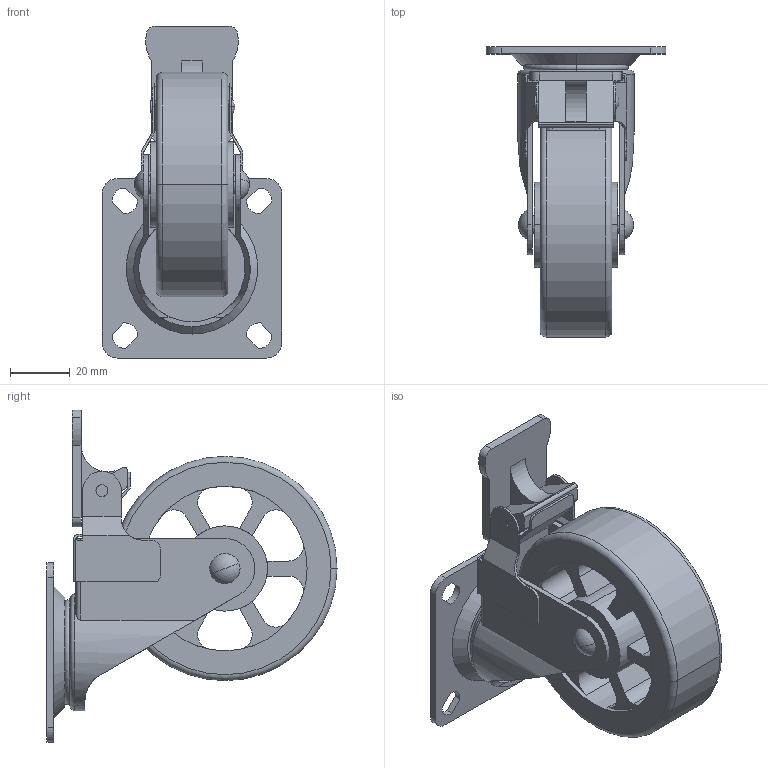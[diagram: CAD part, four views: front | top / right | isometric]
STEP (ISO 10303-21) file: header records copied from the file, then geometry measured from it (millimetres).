
FILE_DESCRIPTION (( 'STEP AP214' ), '1' );
FILE_NAME ('EMMA2-75S-P.STEP', '2020-04-07T06:11:29', ( '' ), ( '' ), 'SwSTEP 2.0', 'SolidWorks 2019', '' );
FILE_SCHEMA (( 'AUTOMOTIVE_DESIGN' ));
Length unit declared in the file: millimetre
Products named in the file (8): EMMA-75_stopper_pin; EMMA2-75S-P; EMMA-75_stopper_P2; EMMA-75-P_partsA; EMMA-75_jiku; EMMA-75_stopper_P1; EMMA2-75_wheel; EMMA-75-P_partsB
Assembly tree (7 placements, depth 2):
  EMMA2-75S-P
    EMMA-75-P_partsB
    EMMA2-75_wheel
    EMMA-75_jiku
    EMMA-75-P_partsA
    EMMA-75_stopper_P1
    EMMA-75_stopper_P2
    EMMA-75_stopper_pin
Bounding box: 60 x 97 x 111 mm (x, y, z)
Volume: 109566.7 mm3; surface area: 50671.3 mm2
Topology: 7 solids, 7 shells, 216 faces, 580 edges, 385 vertices
Faces by surface type: plane 108, cylinder 92, torus 8, sphere 6, cone 2
Entity records: 7360 total; most frequent: CARTESIAN_POINT 1363, DIRECTION 1252, ORIENTED_EDGE 1160, EDGE_CURVE 580, AXIS2_PLACEMENT_3D 466, VERTEX_POINT 385, LINE 320, VECTOR 320
